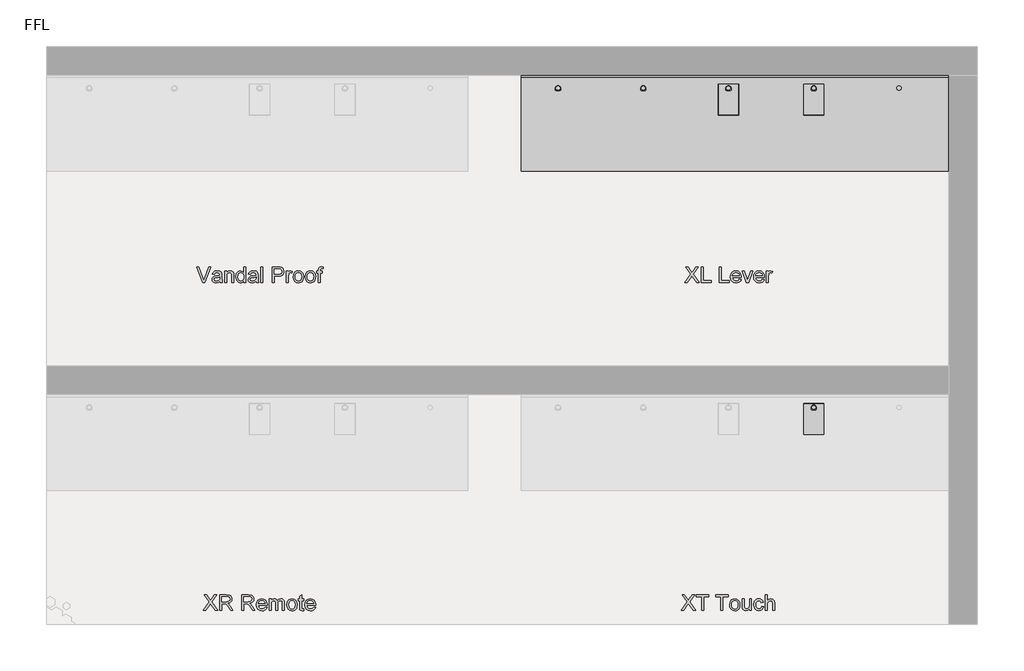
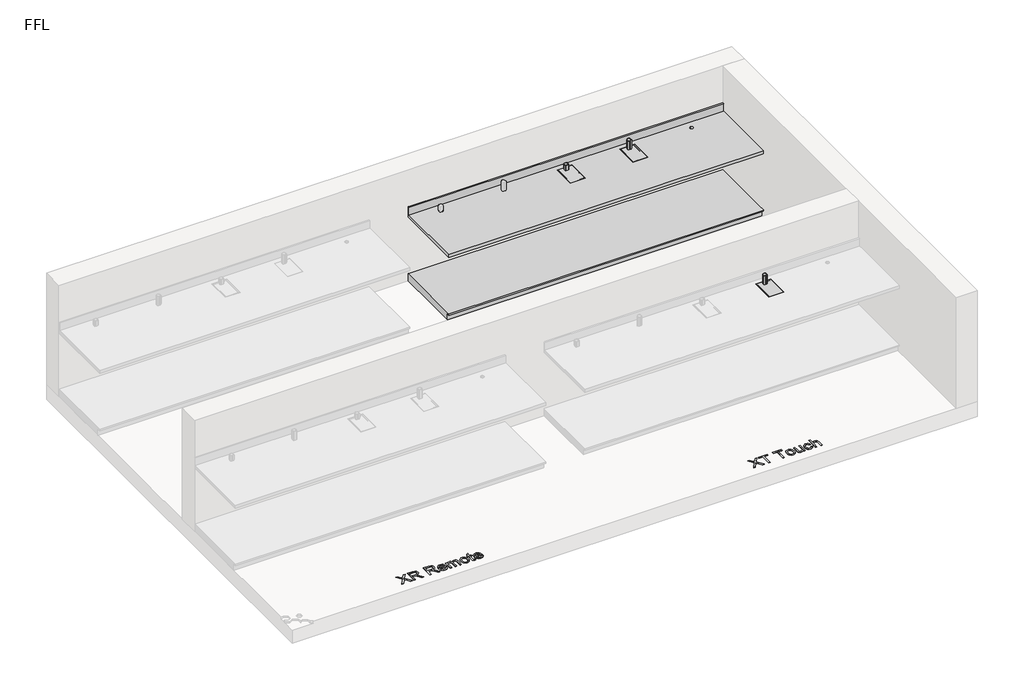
# One storey, part 2 of 2: 4 proxies, 3 flow terminals, 2 furniture elements.
"""IFC4 building model written with IfcOpenShell, lengths in millimetres."""

from ifc_helpers import new_model, si_unit, frame, origin, origin_with_axes, place, context, project, spatial, polyline, circle_curve, outline, extrude, transform, mapped, element, save
from ifc_brep_helpers import plane_surface, revolved_surface, advanced_brep
from components import chrome_988dec97, chrome_73782d16, generic_plinth_900mm_18ae8893

model = new_model("IFC4")

# Units and contexts
model_context = context("Model", 3, world=origin())
ifc_project = project(units=[si_unit("LENGTHUNIT", "METRE", prefix="MILLI")], contexts=[model_context])

# Site, building, storey
site = spatial("IfcSite", under=ifc_project)
building = spatial("IfcBuilding", under=site)
storey = spatial("IfcBuildingStorey", under=building, Name="FFL", Elevation=0.0)

# Proxies
placement = place(None, origin())
element("IfcBuildingElementProxy", 1, Name="150mm Arial", ObjectType="150mm Arial", at=placement, inside=storey, context=model_context, shape_type="SweptSolid", body=[
    extrude(outline(polyline([(-5501.8747159, 11901.1531174), (-5560.6487544, 12048.845425), (-5540.889139, 12048.845425), (-5501.5501967, 11942.439175), (-5493.5814467, 11918.4608097), (-5485.7208698, 11942.439175), (-5446.2737544, 12048.845425), (-5426.514139, 12048.845425), (-5482.8001967, 11901.1531174), (-5501.8747159, 11901.1531174)])), origin_with_axes(), (0.0, 0.0, 1.0), 5.0),
    extrude(outline(polyline([(-5342.4276006, 11914.9992712), (-5360.3302448, 11902.487252), (-5380.107889, 11898.845425), (-5395.5360741, 11901.0359299), (-5406.9167833, 11907.6074443), (-5413.9345116, 11917.5864106), (-5416.2737544, 11929.9992712), (-5412.7401006, 11944.6026366), (-5403.4552448, 11955.2035981), (-5390.5285621, 11961.2612904), (-5374.5550044, 11964.0377327), (-5342.5357736, 11970.3838866), (-5342.4276006, 11974.4944635), (-5343.6986342, 11982.7336462), (-5347.5117352, 11988.1242712), (-5356.0393794, 11992.126675), (-5367.920389, 11993.4608097), (-5386.5982736, 11989.909127), (-5395.5045236, 11977.3069635), (-5413.9660621, 11979.6146558), (-5405.9792833, 11997.643502), (-5389.8975525, 12008.2084058), (-5365.5405813, 12011.9223481), (-5343.1667833, 12008.6410981), (-5330.5285621, 12000.4019154), (-5324.8675044, 11987.8718674), (-5323.9660621, 11971.7180212), (-5323.9660621, 11948.7492712), (-5323.0285621, 11916.6759539), (-5319.3506775, 11901.1531174), (-5337.8122159, 11901.1531174), (-5342.4276006, 11914.9992712)]), holes=[polyline([(-5342.4276006, 11951.9223481), (-5372.2112544, 11946.2612904), (-5388.0946679, 11943.268502), (-5395.2881775, 11938.4007135), (-5397.8122159, 11931.2973481), (-5392.3134179, 11921.3093674), (-5376.1776006, 11917.3069635), (-5357.4997159, 11921.7240308), (-5345.4564467, 11932.4151366), (-5342.5357736, 11946.6939827), (-5342.4276006, 11951.9223481)])]), origin_with_axes(), (0.0, 0.0, 1.0), 5.0),
    extrude(outline(polyline([(-5298.5814467, 11901.1531174), (-5298.5814467, 12009.6146558), (-5280.1199083, 12009.6146558), (-5280.1199083, 11994.470425), (-5266.0033217, 12007.5593674), (-5246.7304852, 12011.9223481), (-5229.2965909, 12008.4067231), (-5217.3975525, 11999.1759539), (-5211.8626967, 11985.6002327), (-5210.889139, 11967.751675), (-5210.889139, 11901.1531174), (-5229.3506775, 11901.1531174), (-5229.3506775, 11965.2636943), (-5231.4780813, 11981.5978289), (-5238.9961102, 11990.2336462), (-5251.670389, 11993.4608097), (-5262.4831895, 11991.6489106), (-5271.7004371, 11986.2132135), (-5278.0150405, 11975.7114106), (-5280.1199083, 11958.7011943), (-5280.1199083, 11901.1531174), (-5298.5814467, 11901.1531174)])), origin_with_axes(), (0.0, 0.0, 1.0), 5.0),
    extrude(outline(polyline([(-5118.5814467, 11901.1531174), (-5118.5814467, 11918.5689827), (-5130.79599, 11903.7763145), (-5147.6800044, 11898.845425), (-5159.6151006, 11900.6302808), (-5170.5405813, 11905.9848481), (-5179.7893794, 11914.5350284), (-5186.6944275, 11925.9067231), (-5190.9943073, 11939.6401967), (-5192.4276006, 11955.2757135), (-5187.1451486, 11984.6627327), (-5180.5465909, 11996.3183818), (-5171.3158217, 12004.8910981), (-5160.1514587, 12010.1645356), (-5147.7521198, 12011.9223481), (-5130.732889, 12006.8923), (-5118.5814467, 11993.8213866), (-5118.5814467, 12048.845425), (-5100.1199083, 12048.845425), (-5100.1199083, 11901.1531174), (-5118.5814467, 11901.1531174)]), holes=[polyline([(-5173.9660621, 11955.3478289), (-5171.8837304, 11938.6486101), (-5165.6367352, 11926.7721077), (-5156.5592111, 11919.6732496), (-5145.9852929, 11917.3069635), (-5135.4158818, 11919.5650765), (-5126.5682256, 11926.3394154), (-5120.5781414, 11937.7561823), (-5118.5814467, 11953.9415789), (-5120.6141991, 11971.6368914), (-5126.7124563, 11983.9055212), (-5135.7854732, 11991.0719875), (-5146.7425044, 11993.4608097), (-5157.4245958, 11991.166639), (-5166.1776006, 11984.284127), (-5172.0189467, 11972.4617111), (-5173.9660621, 11955.3478289)])]), origin_with_axes(), (0.0, 0.0, 1.0), 5.0),
    extrude(outline(polyline([(-5003.1968313, 11914.9992712), (-5021.0994756, 11902.487252), (-5040.8771198, 11898.845425), (-5056.3053049, 11901.0359299), (-5067.686014, 11907.6074443), (-5074.7037424, 11917.5864106), (-5077.0429852, 11929.9992712), (-5073.5093313, 11944.6026366), (-5064.2244756, 11955.2035981), (-5051.2977929, 11961.2612904), (-5035.3242352, 11964.0377327), (-5003.3050044, 11970.3838866), (-5003.1968313, 11974.4944635), (-5004.467865, 11982.7336462), (-5008.2809659, 11988.1242712), (-5016.8086102, 11992.126675), (-5028.6896198, 11993.4608097), (-5047.3675044, 11989.909127), (-5056.2737544, 11977.3069635), (-5074.7352929, 11979.6146558), (-5066.748514, 11997.643502), (-5050.6667833, 12008.2084058), (-5026.3098121, 12011.9223481), (-5003.936014, 12008.6410981), (-4991.2977929, 12000.4019154), (-4985.6367352, 11987.8718674), (-4984.7352929, 11971.7180212), (-4984.7352929, 11948.7492712), (-4983.7977929, 11916.6759539), (-4980.1199083, 11901.1531174), (-4998.5814467, 11901.1531174), (-5003.1968313, 11914.9992712)]), holes=[polyline([(-5003.1968313, 11951.9223481), (-5032.9804852, 11946.2612904), (-5048.8638986, 11943.268502), (-5056.0574083, 11938.4007135), (-5058.5814467, 11931.2973481), (-5053.0826486, 11921.3093674), (-5036.9468313, 11917.3069635), (-5018.2689467, 11921.7240308), (-5006.2256775, 11932.4151366), (-5003.3050044, 11946.6939827), (-5003.1968313, 11951.9223481)])]), origin_with_axes(), (0.0, 0.0, 1.0), 5.0),
    extrude(outline(polyline([(-4959.3506775, 11901.1531174), (-4959.3506775, 12048.845425), (-4940.889139, 12048.845425), (-4940.889139, 11901.1531174), (-4959.3506775, 11901.1531174)])), origin_with_axes(), (0.0, 0.0, 1.0), 5.0),
    extrude(outline(polyline([(-4853.1968313, 11901.1531174), (-4853.1968313, 12048.845425), (-4798.4612544, 12048.845425), (-4776.3939467, 12047.439175), (-4758.4552448, 12040.534127), (-4746.826639, 12026.2552808), (-4742.4276006, 12006.1170597), (-4745.397853, 11988.7102087), (-4754.3086102, 11974.206002), (-4770.9717712, 11964.4163385), (-4797.1992352, 11961.1531174), (-4834.7352929, 11961.1531174), (-4834.7352929, 11901.1531174), (-4853.1968313, 11901.1531174)]), holes=[polyline([(-4834.7352929, 11979.6146558), (-4796.1175044, 11979.6146558), (-4779.7473121, 11981.3093674), (-4768.9300044, 11986.393502), (-4762.8993554, 11994.5515549), (-4760.889139, 12005.4680212), (-4765.6307256, 12020.7564827), (-4778.0886583, 12029.1218674), (-4796.5501967, 12030.3838866), (-4834.7352929, 12030.3838866), (-4834.7352929, 11979.6146558)])]), origin_with_axes(), (0.0, 0.0, 1.0), 5.0),
    extrude(outline(polyline([(-4719.3506775, 11901.1531174), (-4719.3506775, 12009.6146558), (-4703.1968313, 12009.6146558), (-4703.1968313, 11993.5689827), (-4691.7304852, 12008.3526366), (-4680.1920236, 12011.9223481), (-4661.6583698, 12006.2252327), (-4667.8242352, 11989.674752), (-4680.8050044, 11993.4608097), (-4691.2437063, 11989.8189827), (-4697.8963506, 11979.7228289), (-4700.889139, 11958.1603289), (-4700.889139, 11901.1531174), (-4719.3506775, 11901.1531174)])), origin_with_axes(), (0.0, 0.0, 1.0), 5.0),
    extrude(outline(polyline([(-4654.7352929, 11955.3838866), (-4650.7419034, 11981.5347279), (-4638.7617352, 11999.9151366), (-4623.9600525, 12008.9205452), (-4606.2376967, 12011.9223481), (-4586.8431655, 12008.2669996), (-4571.3518794, 11997.3009539), (-4561.1971318, 11979.8895957), (-4557.8122159, 11956.8983097), (-4559.3086102, 11938.2474683), (-4563.7977929, 11924.049752), (-4571.1490549, 11913.41724), (-4581.2316871, 11905.4620116), (-4593.2073482, 11900.4995717), (-4606.2376967, 11898.845425), (-4625.866603, 11902.487252), (-4641.3398602, 11913.4127327), (-4651.3864347, 11931.189175), (-4654.7352929, 11955.3838866)]), holes=[polyline([(-4636.2737544, 11955.4199443), (-4634.1373361, 11938.7117111), (-4627.7280813, 11926.8081654), (-4618.0826486, 11919.682264), (-4606.2376967, 11917.3069635), (-4594.4468313, 11919.6957856), (-4584.8194275, 11926.862252), (-4578.4101727, 11938.92355), (-4576.2737544, 11955.9968674), (-4578.4236943, 11972.2183217), (-4584.873514, 11983.9596077), (-4594.5144395, 11991.0855092), (-4606.2376967, 11993.4608097), (-4618.0826486, 11991.0945236), (-4627.7280813, 11983.9956654), (-4634.1373361, 11972.119163), (-4636.2737544, 11955.4199443)])]), origin_with_axes(), (0.0, 0.0, 1.0), 5.0),
    extrude(outline(polyline([(-4541.6583698, 11955.3838866), (-4537.6649804, 11981.5347279), (-4525.6848121, 11999.9151366), (-4510.8831294, 12008.9205452), (-4493.1607736, 12011.9223481), (-4473.7662424, 12008.2669996), (-4458.2749563, 11997.3009539), (-4448.1202087, 11979.8895957), (-4444.7352929, 11956.8983097), (-4446.2316871, 11938.2474683), (-4450.7208698, 11924.049752), (-4458.0721318, 11913.41724), (-4468.154764, 11905.4620116), (-4480.1304251, 11900.4995717), (-4493.1607736, 11898.845425), (-4512.7896799, 11902.487252), (-4528.2629371, 11913.4127327), (-4538.3095116, 11931.189175), (-4541.6583698, 11955.3838866)]), holes=[polyline([(-4523.1968313, 11955.4199443), (-4521.0604131, 11938.7117111), (-4514.6511583, 11926.8081654), (-4505.0057256, 11919.682264), (-4493.1607736, 11917.3069635), (-4481.3699083, 11919.6957856), (-4471.7425044, 11926.862252), (-4465.3332496, 11938.92355), (-4463.1968313, 11955.9968674), (-4465.3467712, 11972.2183217), (-4471.7965909, 11983.9596077), (-4481.4375164, 11991.0855092), (-4493.1607736, 11993.4608097), (-4505.0057256, 11991.0945236), (-4514.6511583, 11983.9956654), (-4521.0604131, 11972.119163), (-4523.1968313, 11955.4199443)])]), origin_with_axes(), (0.0, 0.0, 1.0), 5.0),
    extrude(outline(polyline([(-4419.3506775, 11901.1531174), (-4419.3506775, 11991.1531174), (-4435.5045236, 11991.1531174), (-4435.5045236, 12009.6146558), (-4419.3506775, 12009.6146558), (-4419.3506775, 12020.5401366), (-4417.4035621, 12035.9367712), (-4407.9564467, 12046.9343674), (-4389.3506775, 12051.1531174), (-4372.5117352, 12049.1338866), (-4375.2160621, 12031.8261943), (-4385.8530813, 12032.6915789), (-4397.4816871, 12029.626675), (-4400.889139, 12018.1963866), (-4400.889139, 12009.6146558), (-4380.1199083, 12009.6146558), (-4380.1199083, 11991.1531174), (-4400.889139, 11991.1531174), (-4400.889139, 11901.1531174), (-4419.3506775, 11901.1531174)])), origin_with_axes(), (0.0, 0.0, 1.0), 5.0),
])
element("IfcBuildingElementProxy", 2, Name="150mm Arial", ObjectType="150mm Arial", at=placement, inside=storey, context=model_context, shape_type="SweptSolid", body=[
    extrude(outline(polyline([(-980.5045236, 11901.1531174), (-923.5694275, 11981.6338866), (-971.2737544, 12048.845425), (-949.1343313, 12048.845425), (-922.2713506, 12011.0209058), (-913.2208698, 11996.2733097), (-902.6199083, 12011.2733097), (-876.045389, 12048.845425), (-853.5814467, 12048.845425), (-901.2857736, 11981.4175404), (-844.3506775, 11901.1531174), (-866.4901006, 11901.1531174), (-904.4227929, 11954.6627327), (-912.3194275, 11965.768502), (-921.0093313, 11953.581002), (-958.0405813, 11901.1531174), (-980.5045236, 11901.1531174)])), origin_with_axes(), (0.0, 0.0, 1.0), 5.0),
    extrude(outline(polyline([(-825.889139, 11901.1531174), (-825.889139, 12048.845425), (-807.4276006, 12048.845425), (-807.4276006, 11919.6146558), (-733.5814467, 11919.6146558), (-733.5814467, 11901.1531174), (-825.889139, 11901.1531174)])), origin_with_axes(), (0.0, 0.0, 1.0), 5.0),
    extrude(outline(polyline([(-655.1199083, 11901.1531174), (-655.1199083, 12048.845425), (-636.6583698, 12048.845425), (-636.6583698, 11919.6146558), (-562.8122159, 11919.6146558), (-562.8122159, 11901.1531174), (-655.1199083, 11901.1531174)])), origin_with_axes(), (0.0, 0.0, 1.0), 5.0),
    extrude(outline(polyline([(-468.4131775, 11933.4608097), (-450.3122159, 11931.1531174), (-456.834151, 11917.5142952), (-467.2413025, 11907.3189827), (-481.2992953, 11900.9638145), (-498.7737544, 11898.845425), (-520.4354131, 11902.5007736), (-537.1030813, 11913.4668193), (-547.7310861, 11931.0314226), (-551.2737544, 11954.4824443), (-547.6950284, 11978.7222279), (-536.9588506, 11996.8502327), (-520.5165429, 12008.1543193), (-499.8194275, 12011.9223481), (-479.7668434, 12008.1633337), (-463.7437063, 11996.8862904), (-453.2373962, 11978.7943433), (-449.7352929, 11954.5906174), (-449.8434659, 11949.6146558), (-532.8122159, 11949.6146558), (-529.616603, 11935.7955452), (-522.1932256, 11925.6362904), (-511.4795837, 11919.3892952), (-498.4131775, 11917.3069635), (-480.3122159, 11921.1651366), (-468.4131775, 11933.4608097)]), holes=[polyline([(-532.8122159, 11968.0761943), (-468.1968313, 11968.0761943), (-470.6938265, 11977.8298), (-475.5886583, 11984.8069635), (-486.3518794, 11991.2973481), (-499.8915429, 11993.4608097), (-512.3359539, 11991.7345476), (-522.6259179, 11986.5557616), (-529.7788626, 11978.4833457), (-532.8122159, 11968.0761943)])]), origin_with_axes(), (0.0, 0.0, 1.0), 5.0),
    extrude(outline(polyline([(-404.6631775, 11901.1531174), (-442.8122159, 12009.6146558), (-423.2689467, 12009.6146558), (-400.1559659, 11944.6386943), (-393.1968313, 11922.7877327), (-386.3819275, 11943.4127327), (-363.1247159, 12009.6146558), (-343.5814467, 12009.6146558), (-381.2617352, 11901.1531174), (-404.6631775, 11901.1531174)])), origin_with_axes(), (0.0, 0.0, 1.0), 5.0),
    extrude(outline(polyline([(-251.4901006, 11933.4608097), (-233.389139, 11931.1531174), (-239.9110741, 11917.5142952), (-250.3182256, 11907.3189827), (-264.3762184, 11900.9638145), (-281.8506775, 11898.845425), (-303.5123361, 11902.5007736), (-320.1800044, 11913.4668193), (-330.8080092, 11931.0314226), (-334.3506775, 11954.4824443), (-330.7719515, 11978.7222279), (-320.0357736, 11996.8502327), (-303.5934659, 12008.1543193), (-282.8963506, 12011.9223481), (-262.8437664, 12008.1633337), (-246.8206294, 11996.8862904), (-236.3143193, 11978.7943433), (-232.8122159, 11954.5906174), (-232.920389, 11949.6146558), (-315.889139, 11949.6146558), (-312.693526, 11935.7955452), (-305.2701486, 11925.6362904), (-294.5565068, 11919.3892952), (-281.4901006, 11917.3069635), (-263.389139, 11921.1651366), (-251.4901006, 11933.4608097)]), holes=[polyline([(-315.889139, 11968.0761943), (-251.2737544, 11968.0761943), (-253.7707496, 11977.8298), (-258.6655813, 11984.8069635), (-269.4288025, 11991.2973481), (-282.9684659, 11993.4608097), (-295.412877, 11991.7345476), (-305.7028409, 11986.5557616), (-312.8557857, 11978.4833457), (-315.889139, 11968.0761943)])]), origin_with_axes(), (0.0, 0.0, 1.0), 5.0),
    extrude(outline(polyline([(-214.3506775, 11901.1531174), (-214.3506775, 12009.6146558), (-198.1968313, 12009.6146558), (-198.1968313, 11993.5689827), (-186.7304852, 12008.3526366), (-175.1920236, 12011.9223481), (-156.6583698, 12006.2252327), (-162.8242352, 11989.674752), (-175.8050044, 11993.4608097), (-186.2437063, 11989.8189827), (-192.8963506, 11979.7228289), (-195.889139, 11958.1603289), (-195.889139, 11901.1531174), (-214.3506775, 11901.1531174)])), origin_with_axes(), (0.0, 0.0, 1.0), 5.0),
])
element("IfcBuildingElementProxy", 3, Name="150mm Arial", ObjectType="150mm Arial", at=placement, inside=storey, context=model_context, shape_type="SweptSolid", body=[
    extrude(outline(polyline([(-5499.3506775, 8821.1531174), (-5442.4155813, 8901.6338866), (-5490.1199083, 8968.845425), (-5467.9804852, 8968.845425), (-5441.1175044, 8931.0209058), (-5432.0670236, 8916.2733097), (-5421.4660621, 8931.2733097), (-5394.8915429, 8968.845425), (-5372.4276006, 8968.845425), (-5420.1319275, 8901.4175404), (-5363.1968313, 8821.1531174), (-5385.3362544, 8821.1531174), (-5423.2689467, 8874.6627327), (-5431.1655813, 8885.768502), (-5439.8554852, 8873.581002), (-5476.8867352, 8821.1531174), (-5499.3506775, 8821.1531174)])), origin_with_axes(), (0.0, 0.0, 1.0), 5.0),
    extrude(outline(polyline([(-5344.7352929, 8821.1531174), (-5344.7352929, 8968.845425), (-5281.0934659, 8968.845425), (-5251.5441871, 8964.86105), (-5242.4486342, 8959.3442231), (-5235.3903409, 8950.7624924), (-5230.8605934, 8940.1209659), (-5229.3506775, 8928.424752), (-5231.8521799, 8913.8754731), (-5239.3566871, 8901.814175), (-5252.0895597, 8892.971026), (-5270.2761583, 8888.0761943), (-5259.7833698, 8880.1795597), (-5244.8194275, 8861.1771558), (-5220.1920236, 8821.1531174), (-5241.6463506, 8821.1531174), (-5260.8651006, 8851.7660981), (-5274.7473121, 8872.0305212), (-5284.5009179, 8881.6038385), (-5293.2809659, 8885.1194635), (-5303.9901006, 8885.768502), (-5326.2737544, 8885.768502), (-5326.2737544, 8821.1531174), (-5344.7352929, 8821.1531174)]), holes=[polyline([(-5326.2737544, 8904.2300404), (-5284.951639, 8904.2300404), (-5263.8759179, 8906.8442231), (-5251.904764, 8915.2096077), (-5247.8122159, 8927.7396558), (-5249.7638385, 8936.7450645), (-5255.6187063, 8944.001675), (-5265.6923241, 8948.7883337), (-5280.3001967, 8950.3838866), (-5326.2737544, 8950.3838866), (-5326.2737544, 8904.2300404)])]), origin_with_axes(), (0.0, 0.0, 1.0), 5.0),
    extrude(outline(polyline([(-5139.3506775, 8821.1531174), (-5139.3506775, 8968.845425), (-5075.7088506, 8968.845425), (-5046.1595717, 8964.86105), (-5037.0640188, 8959.3442231), (-5030.0057256, 8950.7624924), (-5025.475978, 8940.1209659), (-5023.9660621, 8928.424752), (-5026.4675645, 8913.8754731), (-5033.9720717, 8901.814175), (-5046.7049443, 8892.971026), (-5064.8915429, 8888.0761943), (-5054.3987544, 8880.1795597), (-5039.4348121, 8861.1771558), (-5014.8074083, 8821.1531174), (-5036.2617352, 8821.1531174), (-5055.4804852, 8851.7660981), (-5069.3626967, 8872.0305212), (-5079.1163025, 8881.6038385), (-5087.8963506, 8885.1194635), (-5098.6054852, 8885.768502), (-5120.889139, 8885.768502), (-5120.889139, 8821.1531174), (-5139.3506775, 8821.1531174)]), holes=[polyline([(-5120.889139, 8904.2300404), (-5079.5670236, 8904.2300404), (-5058.4913025, 8906.8442231), (-5046.5201486, 8915.2096077), (-5042.4276006, 8927.7396558), (-5044.3792232, 8936.7450645), (-5050.2340909, 8944.001675), (-5060.3077087, 8948.7883337), (-5074.9155813, 8950.3838866), (-5120.889139, 8950.3838866), (-5120.889139, 8904.2300404)])]), origin_with_axes(), (0.0, 0.0, 1.0), 5.0),
    extrude(outline(polyline([(-4918.0285621, 8853.4608097), (-4899.9276006, 8851.1531174), (-4906.4495357, 8837.5142952), (-4916.8566871, 8827.3189827), (-4930.9146799, 8820.9638145), (-4948.389139, 8818.845425), (-4970.0507977, 8822.5007736), (-4986.7184659, 8833.4668193), (-4997.3464708, 8851.0314226), (-5000.889139, 8874.4824443), (-4997.3104131, 8898.7222279), (-4986.5742352, 8916.8502327), (-4970.1319275, 8928.1543193), (-4949.4348121, 8931.9223481), (-4929.382228, 8928.1633337), (-4913.3590909, 8916.8862904), (-4902.8527809, 8898.7943433), (-4899.3506775, 8874.5906174), (-4899.4588506, 8869.6146558), (-4982.4276006, 8869.6146558), (-4979.2319876, 8855.7955452), (-4971.8086102, 8845.6362904), (-4961.0949684, 8839.3892952), (-4948.0285621, 8837.3069635), (-4929.9276006, 8841.1651366), (-4918.0285621, 8853.4608097)]), holes=[polyline([(-4982.4276006, 8888.0761943), (-4917.8122159, 8888.0761943), (-4920.3092111, 8897.8298), (-4925.2040429, 8904.8069635), (-4935.967264, 8911.2973481), (-4949.5069275, 8913.4608097), (-4961.9513385, 8911.7345476), (-4972.2413025, 8906.5557616), (-4979.3942472, 8898.4833457), (-4982.4276006, 8888.0761943)])]), origin_with_axes(), (0.0, 0.0, 1.0), 5.0),
    extrude(outline(polyline([(-4880.889139, 8821.1531174), (-4880.889139, 8929.6146558), (-4862.4276006, 8929.6146558), (-4862.4276006, 8911.7660981), (-4849.7352929, 8926.3874924), (-4831.670389, 8931.9223481), (-4821.4029611, 8930.5115909), (-4813.1727929, 8926.2793193), (-4803.0045236, 8910.4680212), (-4788.5994756, 8926.5587664), (-4770.4083698, 8931.9223481), (-4756.5306655, 8929.6912784), (-4746.2677448, 8922.9980693), (-4739.9260982, 8911.6624323), (-4737.8122159, 8895.5040789), (-4737.8122159, 8821.1531174), (-4756.2737544, 8821.1531174), (-4756.2737544, 8887.5713866), (-4757.9864948, 8902.98605), (-4764.1884179, 8910.5761943), (-4774.7352929, 8913.4608097), (-4784.7367953, 8911.6128529), (-4792.8903409, 8906.0689827), (-4798.3125164, 8896.4505933), (-4800.1199083, 8882.3790789), (-4800.1199083, 8821.1531174), (-4818.5814467, 8821.1531174), (-4818.5814467, 8889.626675), (-4822.8542833, 8907.5112904), (-4828.4928049, 8911.9734299), (-4836.8626967, 8913.4608097), (-4850.5285621, 8909.4944635), (-4859.6151006, 8897.8838866), (-4862.4276006, 8875.8526366), (-4862.4276006, 8821.1531174), (-4880.889139, 8821.1531174)])), origin_with_axes(), (0.0, 0.0, 1.0), 5.0),
    extrude(outline(polyline([(-4714.7352929, 8875.3838866), (-4710.7419034, 8901.5347279), (-4698.7617352, 8919.9151366), (-4683.9600525, 8928.9205452), (-4666.2376967, 8931.9223481), (-4646.8431655, 8928.2669996), (-4631.3518794, 8917.3009539), (-4621.1971318, 8899.8895957), (-4617.8122159, 8876.8983097), (-4619.3086102, 8858.2474683), (-4623.7977929, 8844.049752), (-4631.1490549, 8833.41724), (-4641.2316871, 8825.4620116), (-4653.2073482, 8820.4995717), (-4666.2376967, 8818.845425), (-4685.866603, 8822.487252), (-4701.3398602, 8833.4127327), (-4711.3864347, 8851.189175), (-4714.7352929, 8875.3838866)]), holes=[polyline([(-4696.2737544, 8875.4199443), (-4694.1373361, 8858.7117111), (-4687.7280813, 8846.8081654), (-4678.0826486, 8839.682264), (-4666.2376967, 8837.3069635), (-4654.4468313, 8839.6957856), (-4644.8194275, 8846.862252), (-4638.4101727, 8858.92355), (-4636.2737544, 8875.9968674), (-4638.4236943, 8892.2183217), (-4644.873514, 8903.9596077), (-4654.5144395, 8911.0855092), (-4666.2376967, 8913.4608097), (-4678.0826486, 8911.0945236), (-4687.7280813, 8903.9956654), (-4694.1373361, 8892.119163), (-4696.2737544, 8875.4199443)])]), origin_with_axes(), (0.0, 0.0, 1.0), 5.0),
    extrude(outline(polyline([(-4557.8122159, 8836.549752), (-4555.5045236, 8820.612252), (-4569.3146198, 8818.845425), (-4584.7833698, 8821.9103289), (-4592.4997159, 8829.9511943), (-4594.7352929, 8850.9007135), (-4594.7352929, 8911.1531174), (-4608.5814467, 8911.1531174), (-4608.5814467, 8929.6146558), (-4594.7352929, 8929.6146558), (-4594.7352929, 8955.9728289), (-4576.2737544, 8966.8261943), (-4576.2737544, 8929.6146558), (-4557.8122159, 8929.6146558), (-4557.8122159, 8911.1531174), (-4576.2737544, 8911.1531174), (-4576.2737544, 8851.4415789), (-4575.3001967, 8841.9223481), (-4572.1451486, 8838.5509539), (-4565.8530813, 8837.3069635), (-4557.8122159, 8836.549752)])), origin_with_axes(), (0.0, 0.0, 1.0), 5.0),
    extrude(outline(polyline([(-4463.4131775, 8853.4608097), (-4445.3122159, 8851.1531174), (-4451.834151, 8837.5142952), (-4462.2413025, 8827.3189827), (-4476.2992953, 8820.9638145), (-4493.7737544, 8818.845425), (-4515.4354131, 8822.5007736), (-4532.1030813, 8833.4668193), (-4542.7310861, 8851.0314226), (-4546.2737544, 8874.4824443), (-4542.6950284, 8898.7222279), (-4531.9588506, 8916.8502327), (-4515.5165429, 8928.1543193), (-4494.8194275, 8931.9223481), (-4474.7668434, 8928.1633337), (-4458.7437063, 8916.8862904), (-4448.2373962, 8898.7943433), (-4444.7352929, 8874.5906174), (-4444.8434659, 8869.6146558), (-4527.8122159, 8869.6146558), (-4524.616603, 8855.7955452), (-4517.1932256, 8845.6362904), (-4506.4795837, 8839.3892952), (-4493.4131775, 8837.3069635), (-4475.3122159, 8841.1651366), (-4463.4131775, 8853.4608097)]), holes=[polyline([(-4527.8122159, 8888.0761943), (-4463.1968313, 8888.0761943), (-4465.6938265, 8897.8298), (-4470.5886583, 8904.8069635), (-4481.3518794, 8911.2973481), (-4494.8915429, 8913.4608097), (-4507.3359539, 8911.7345476), (-4517.6259179, 8906.5557616), (-4524.7788626, 8898.4833457), (-4527.8122159, 8888.0761943)])]), origin_with_axes(), (0.0, 0.0, 1.0), 5.0),
])
element("IfcBuildingElementProxy", 4, Name="150mm Arial", ObjectType="150mm Arial", at=placement, inside=storey, context=model_context, shape_type="SweptSolid", body=[
    extrude(outline(polyline([(-1013.9660621, 8821.1531174), (-957.0309659, 8901.6338866), (-1004.7352929, 8968.845425), (-982.5958698, 8968.845425), (-955.732889, 8931.0209058), (-946.6824083, 8916.2733097), (-936.0814467, 8931.2733097), (-909.5069275, 8968.845425), (-887.0429852, 8968.845425), (-934.7473121, 8901.4175404), (-877.8122159, 8821.1531174), (-899.951639, 8821.1531174), (-937.8843313, 8874.6627327), (-945.7809659, 8885.768502), (-954.4708698, 8873.581002), (-991.5021198, 8821.1531174), (-1013.9660621, 8821.1531174)])), origin_with_axes(), (0.0, 0.0, 1.0), 5.0),
    extrude(outline(polyline([(-822.4276006, 8821.1531174), (-822.4276006, 8950.3838866), (-870.889139, 8950.3838866), (-870.889139, 8968.845425), (-755.5045236, 8968.845425), (-755.5045236, 8950.3838866), (-803.9660621, 8950.3838866), (-803.9660621, 8821.1531174), (-822.4276006, 8821.1531174)])), origin_with_axes(), (0.0, 0.0, 1.0), 5.0),
    extrude(outline(polyline([(-640.1199083, 8821.1531174), (-640.1199083, 8950.3838866), (-688.5814467, 8950.3838866), (-688.5814467, 8968.845425), (-573.1968313, 8968.845425), (-573.1968313, 8950.3838866), (-621.6583698, 8950.3838866), (-621.6583698, 8821.1531174), (-640.1199083, 8821.1531174)])), origin_with_axes(), (0.0, 0.0, 1.0), 5.0),
    extrude(outline(polyline([(-559.3506775, 8875.3838866), (-555.3572881, 8901.5347279), (-543.3771198, 8919.9151366), (-528.5754371, 8928.9205452), (-510.8530813, 8931.9223481), (-491.4585501, 8928.2669996), (-475.967264, 8917.3009539), (-465.8125164, 8899.8895957), (-462.4276006, 8876.8983097), (-463.9239948, 8858.2474683), (-468.4131775, 8844.049752), (-475.7644395, 8833.41724), (-485.8470717, 8825.4620116), (-497.8227328, 8820.4995717), (-510.8530813, 8818.845425), (-530.4819876, 8822.487252), (-545.9552448, 8833.4127327), (-556.0018193, 8851.189175), (-559.3506775, 8875.3838866)]), holes=[polyline([(-540.889139, 8875.4199443), (-538.7527208, 8858.7117111), (-532.3434659, 8846.8081654), (-522.6980333, 8839.682264), (-510.8530813, 8837.3069635), (-499.0622159, 8839.6957856), (-489.4348121, 8846.862252), (-483.0255573, 8858.92355), (-480.889139, 8875.9968674), (-483.0390789, 8892.2183217), (-489.4888986, 8903.9596077), (-499.1298241, 8911.0855092), (-510.8530813, 8913.4608097), (-522.6980333, 8911.0945236), (-532.3434659, 8903.9956654), (-538.7527208, 8892.119163), (-540.889139, 8875.4199443)])]), origin_with_axes(), (0.0, 0.0, 1.0), 5.0),
    extrude(outline(polyline([(-372.4276006, 8821.1531174), (-372.4276006, 8839.7949443), (-386.8867352, 8824.0828049), (-405.7449083, 8818.845425), (-423.1066871, 8822.5233097), (-435.0778409, 8831.7540789), (-440.576639, 8845.3478289), (-441.6583698, 8862.5112904), (-441.6583698, 8929.6146558), (-423.1968313, 8929.6146558), (-423.1968313, 8871.2011943), (-422.0790429, 8852.3790789), (-414.7773602, 8841.3273962), (-401.0213506, 8837.3069635), (-385.6066871, 8841.4175404), (-375.420389, 8852.6134539), (-372.4276006, 8873.1843674), (-372.4276006, 8929.6146558), (-353.9660621, 8929.6146558), (-353.9660621, 8821.1531174), (-372.4276006, 8821.1531174)])), origin_with_axes(), (0.0, 0.0, 1.0), 5.0),
    extrude(outline(polyline([(-259.3506775, 8860.3838866), (-240.889139, 8858.0761943), (-246.0363746, 8841.6564226), (-255.7088506, 8829.2480693), (-268.9961102, 8821.4460861), (-284.9876967, 8818.845425), (-304.6256174, 8822.4737303), (-319.9816871, 8833.3586462), (-329.8930453, 8851.0224082), (-333.1968313, 8874.987252), (-327.5538025, 8905.6543193), (-320.4324083, 8917.1522159), (-310.3542833, 8925.3598481), (-298.2974924, 8930.2817231), (-285.2401006, 8931.9223481), (-269.6406414, 8929.6687424), (-257.1691871, 8922.907925), (-248.2223722, 8912.0004731), (-243.1968313, 8897.3069635), (-261.6583698, 8894.9992712), (-270.2220717, 8908.8273962), (-285.0958698, 8913.4608097), (-297.0264587, 8911.1801606), (-306.4961102, 8904.3382135), (-312.6754972, 8892.565377), (-314.7352929, 8875.4920597), (-312.7205693, 8858.1888746), (-306.6763986, 8846.3754731), (-297.3780212, 8839.5740909), (-285.6006775, 8837.3069635), (-276.0408818, 8838.7222279), (-268.2028409, 8842.9680212), (-262.5012184, 8850.1525164), (-259.3506775, 8860.3838866)])), origin_with_axes(), (0.0, 0.0, 1.0), 5.0),
    extrude(outline(polyline([(-224.7352929, 8821.1531174), (-224.7352929, 8968.845425), (-206.2737544, 8968.845425), (-206.2737544, 8914.5425404), (-191.8777208, 8927.5773962), (-174.1463506, 8931.9223481), (-153.4131775, 8927.1807616), (-140.8290429, 8914.0737904), (-137.0429852, 8889.8069635), (-137.0429852, 8821.1531174), (-155.5045236, 8821.1531174), (-155.5045236, 8887.8959058), (-156.9738746, 8899.4523962), (-161.3819275, 8907.3670597), (-168.4852929, 8911.9373722), (-178.0405813, 8913.4608097), (-193.1667833, 8909.3502327), (-203.2629371, 8898.2084058), (-206.2737544, 8878.7733097), (-206.2737544, 8821.1531174), (-224.7352929, 8821.1531174)])), origin_with_axes(), (0.0, 0.0, 1.0), 5.0),
])

# Flow terminals
chrome_shape = chrome_988dec97(model_context)
element("IfcFlowTerminal", 5, ObjectType="z_PlumFixt_Billi_Font and 70mm Riser : Matte Black", at=placement, inside=storey, context=model_context, shape_type="MappedRepresentation", body=[
    mapped(chrome_shape, transform((-570.7352929, 13633.3988696, 900.0), x_axis=(1.0, 0.0, 0.0), y_axis=(0.0, 1.0, 0.0), z_axis=(0.0, 0.0, 1.0))),
])
chrome_2_shape = chrome_73782d16(model_context)
element("IfcFlowTerminal", 6, ObjectType="z_PlumFixt_Billi_Font and 120mm Riser : Matte White", at=placement, inside=storey, context=model_context, shape_type="MappedRepresentation", body=[
    mapped(chrome_2_shape, transform((229.2647071, 10633.3988696, 900.0), x_axis=(1.0, 0.0, 0.0), y_axis=(0.0, 1.0, 0.0), z_axis=(0.0, 0.0, 1.0))),
])
element("IfcFlowTerminal", 7, ObjectType="z_PlumFixt_Billi_Font and 120mm Riser : Matte White", at=placement, inside=storey, context=model_context, shape_type="MappedRepresentation", body=[
    mapped(chrome_2_shape, transform((229.2647071, 13633.3988696, 900.0), x_axis=(1.0, 0.0, 0.0), y_axis=(0.0, 1.0, 0.0), z_axis=(0.0, 0.0, 1.0))),
])

# Furniture
element("IfcFurniture", 8, ObjectType="Counter Top : 900mm Depth", at=placement, inside=storey, context=model_context, shape_type="AdvancedBrep", body=[
    advanced_brep(
    [(-2515.7352929, 12948.2393304, 900.0), (1496.7657919, 12948.2393304, 900.0), (1496.7657919, 13829.1893304, 900.0), (-2515.7352929, 13829.1893304, 900.0), (-2169.7352929, 13748.2393304, 900.0), (-2169.7352929, 13708.2393304, 900.0), (-1369.7352929, 13748.2393304, 900.0), (-1369.7352929, 13708.2393304, 900.0), (-474.2352929, 13474.1488696, 900.0), (-665.2352929, 13474.1488696, 900.0), (-665.2352929, 13765.1488696, 900.0), (-474.2352929, 13765.1488696, 900.0), (1030.2647071, 13748.2393304, 900.0), (1030.2647071, 13708.2393304, 900.0), (325.7647071, 13474.1488696, 900.0), (134.7647071, 13474.1488696, 900.0), (134.7647071, 13765.1488696, 900.0), (325.7647071, 13765.1488696, 900.0), (1496.7657919, 13848.2393304, 860.0), (1496.7657919, 12948.2393304, 860.0), (-2515.7352929, 12948.2393304, 860.0), (-2515.7352929, 13848.2393304, 860.0), (-2169.7352929, 13708.2393304, 860.0), (-2169.7352929, 13748.2393304, 860.0), (-1369.7352929, 13708.2393304, 860.0), (-1369.7352929, 13748.2393304, 860.0), (-656.7352929, 13482.6488696, 860.0), (-482.7352929, 13482.6488696, 860.0), (-482.7352929, 13756.6488696, 860.0), (-656.7352929, 13756.6488696, 860.0), (1030.2647071, 13708.2393304, 860.0), (1030.2647071, 13748.2393304, 860.0), (143.2647071, 13482.6488696, 860.0), (317.2647071, 13482.6488696, 860.0), (317.2647071, 13756.6488696, 860.0), (143.2647071, 13756.6488696, 860.0), (-2515.7352929, 13848.2393304, 1001.6), (1496.7657919, 13848.2393304, 1001.6), (-2515.7352929, 13829.1893304, 1001.6), (1496.7657919, 13829.1893304, 1001.6), (-656.7352929, 13482.6488696, 894.5), (-482.7352929, 13482.6488696, 894.5), (-474.2352929, 13474.1488696, 894.5), (-665.2352929, 13474.1488696, 894.5), (-482.7352929, 13756.6488696, 894.5), (-474.2352929, 13765.1488696, 894.5), (-656.7352929, 13756.6488696, 894.5), (-665.2352929, 13765.1488696, 894.5), (143.2647071, 13482.6488696, 894.5), (317.2647071, 13482.6488696, 894.5), (325.7647071, 13474.1488696, 894.5), (134.7647071, 13474.1488696, 894.5), (317.2647071, 13756.6488696, 894.5), (325.7647071, 13765.1488696, 894.5), (143.2647071, 13756.6488696, 894.5), (134.7647071, 13765.1488696, 894.5)],
    [
        (0, 1),
        (1, 2),
        (2, 3),
        (3, 0),
        (4, 5, circle_curve(frame((-2169.7352929, 13728.2393304, 900.0), z_axis=(0.0, 0.0, -1.0), x_axis=(0.0, 1.0, 0.0)), 20.0)),
        (5, 4, circle_curve(frame((-2169.7352929, 13728.2393304, 900.0), z_axis=(0.0, 0.0, -1.0), x_axis=(0.0, 1.0, 0.0)), 20.0)),
        (6, 7, circle_curve(frame((-1369.7352929, 13728.2393304, 900.0), z_axis=(0.0, 0.0, -1.0), x_axis=(0.0, 1.0, 0.0)), 20.0)),
        (7, 6, circle_curve(frame((-1369.7352929, 13728.2393304, 900.0), z_axis=(0.0, 0.0, -1.0), x_axis=(0.0, 1.0, 0.0)), 20.0)),
        (8, 9),
        (9, 10),
        (10, 11),
        (11, 8),
        (12, 13, circle_curve(frame((1030.2647071, 13728.2393304, 900.0), z_axis=(0.0, 0.0, -1.0), x_axis=(0.0, 1.0, 0.0)), 20.0)),
        (13, 12, circle_curve(frame((1030.2647071, 13728.2393304, 900.0), z_axis=(0.0, 0.0, -1.0), x_axis=(0.0, 1.0, 0.0)), 20.0)),
        (14, 15),
        (15, 16),
        (16, 17),
        (17, 14),
        (18, 19),
        (19, 20),
        (20, 21),
        (21, 18),
        (22, 23, circle_curve(frame((-2169.7352929, 13728.2393304, 860.0), z_axis=(0.0, 0.0, 1.0), x_axis=(0.0, 1.0, 0.0)), 20.0)),
        (23, 22, circle_curve(frame((-2169.7352929, 13728.2393304, 860.0), z_axis=(0.0, 0.0, 1.0), x_axis=(0.0, 1.0, 0.0)), 20.0)),
        (24, 25, circle_curve(frame((-1369.7352929, 13728.2393304, 860.0), z_axis=(0.0, 0.0, 1.0), x_axis=(0.0, 1.0, 0.0)), 20.0)),
        (25, 24, circle_curve(frame((-1369.7352929, 13728.2393304, 860.0), z_axis=(0.0, 0.0, 1.0), x_axis=(0.0, 1.0, 0.0)), 20.0)),
        (26, 27),
        (27, 28),
        (28, 29),
        (29, 26),
        (30, 31, circle_curve(frame((1030.2647071, 13728.2393304, 860.0), z_axis=(0.0, 0.0, 1.0), x_axis=(0.0, 1.0, 0.0)), 20.0)),
        (31, 30, circle_curve(frame((1030.2647071, 13728.2393304, 860.0), z_axis=(0.0, 0.0, 1.0), x_axis=(0.0, 1.0, 0.0)), 20.0)),
        (32, 33),
        (33, 34),
        (34, 35),
        (35, 32),
        (21, 36),
        (36, 37),
        (37, 18),
        (3, 38),
        (38, 36),
        (20, 0),
        (19, 1),
        (37, 39),
        (39, 2),
        (38, 39),
        (22, 5),
        (4, 23),
        (24, 7),
        (6, 25),
        (40, 41),
        (41, 27),
        (26, 40),
        (8, 42),
        (42, 43),
        (43, 9),
        (41, 44),
        (44, 28),
        (11, 45),
        (45, 42),
        (44, 46),
        (46, 29),
        (10, 47),
        (47, 45),
        (46, 40),
        (47, 43),
        (30, 13),
        (12, 31),
        (48, 49),
        (49, 33),
        (32, 48),
        (14, 50),
        (50, 51),
        (51, 15),
        (49, 52),
        (52, 34),
        (17, 53),
        (53, 50),
        (52, 54),
        (54, 35),
        (16, 55),
        (55, 53),
        (54, 48),
        (55, 51),
    ],
    [
        plane_surface(frame((-2515.7352929, 13848.2393304, 900.0), z_axis=(0.0, 0.0, 1.0), x_axis=(-1.0, 0.0, 0.0))),
        plane_surface(frame((-2515.7352929, 13848.2393304, 860.0), z_axis=(0.0, 0.0, -1.0), x_axis=(1.0, 0.0, 0.0))),
        plane_surface(frame((1496.7657919, 13848.2393304, 900.0), z_axis=(0.0, 1.0, 0.0), x_axis=(0.0, 0.0, -1.0))),
        plane_surface(frame((-2515.7352929, 13848.2393304, 900.0), z_axis=(-1.0, 0.0, 0.0), x_axis=(0.0, 0.0, -1.0))),
        plane_surface(frame((-2515.7352929, 12948.2393304, 900.0), z_axis=(0.0, -1.0, 0.0), x_axis=(0.0, 0.0, -1.0))),
        plane_surface(frame((1496.7657919, 12948.2393304, 900.0), z_axis=(1.0, 0.0, 0.0), x_axis=(0.0, 0.0, -1.0))),
        plane_surface(frame((-2515.7352929, 13848.2393304, 1001.6), z_axis=(0.0, 0.0, 1.0), x_axis=(0.0, -1.0, 0.0))),
        plane_surface(frame((-2515.7352929, 13829.1893304, 1001.6), z_axis=(0.0, -1.0, 0.0), x_axis=(0.0, 0.0, -1.0))),
        revolved_surface(polyline([(-2169.7352929, 13748.2393304, 900.0), (-2169.7352929, 13748.2393304, 860.0)]), (-2169.7352929, 13728.2393304, 800.0), (0.0, 0.0, 1.0)),
        revolved_surface(polyline([(-1369.7352929, 13748.2393304, 900.0), (-1369.7352929, 13748.2393304, 860.0)]), (-1369.7352929, 13728.2393304, 800.0), (0.0, 0.0, 1.0)),
        plane_surface(frame((-656.7352929, 13482.6488696, 800.0), z_axis=(0.0, 1.0, 0.0), x_axis=(1.0, 0.0, 0.0))),
        plane_surface(frame((-665.2352929, 13474.1488696, 894.5), z_axis=(0.0, 1.0, 0.0), x_axis=(1.0, 0.0, 0.0))),
        plane_surface(frame((-482.7352929, 13482.6488696, 800.0), z_axis=(-1.0, 0.0, 0.0), x_axis=(0.0, 1.0, 0.0))),
        plane_surface(frame((-474.2352929, 13474.1488696, 894.5), z_axis=(-1.0, 0.0, 0.0), x_axis=(0.0, 1.0, 0.0))),
        plane_surface(frame((-482.7352929, 13756.6488696, 800.0), z_axis=(0.0, -1.0, 0.0), x_axis=(-1.0, 0.0, 0.0))),
        plane_surface(frame((-474.2352929, 13765.1488696, 894.5), z_axis=(0.0, -1.0, 0.0), x_axis=(-1.0, 0.0, 0.0))),
        plane_surface(frame((-656.7352929, 13756.6488696, 800.0), z_axis=(1.0, 0.0, 0.0), x_axis=(0.0, -1.0, 0.0))),
        plane_surface(frame((-656.7352929, 13756.6488696, 894.5), z_axis=(0.0, 0.0, 1.0), x_axis=(0.0, -1.0, 0.0))),
        plane_surface(frame((-665.2352929, 13765.1488696, 894.5), z_axis=(1.0, 0.0, 0.0), x_axis=(0.0, -1.0, 0.0))),
        revolved_surface(polyline([(1030.2647071, 13748.2393304, 900.0), (1030.2647071, 13748.2393304, 860.0)]), (1030.2647071, 13728.2393304, 800.0), (0.0, 0.0, 1.0)),
        plane_surface(frame((143.2647071, 13482.6488696, 800.0), z_axis=(0.0, 1.0, 0.0), x_axis=(1.0, 0.0, 0.0))),
        plane_surface(frame((134.7647071, 13474.1488696, 894.5), z_axis=(0.0, 1.0, 0.0), x_axis=(1.0, 0.0, 0.0))),
        plane_surface(frame((317.2647071, 13482.6488696, 800.0), z_axis=(-1.0, 0.0, 0.0), x_axis=(0.0, 1.0, 0.0))),
        plane_surface(frame((325.7647071, 13474.1488696, 894.5), z_axis=(-1.0, 0.0, 0.0), x_axis=(0.0, 1.0, 0.0))),
        plane_surface(frame((317.2647071, 13756.6488696, 800.0), z_axis=(0.0, -1.0, 0.0), x_axis=(-1.0, 0.0, 0.0))),
        plane_surface(frame((325.7647071, 13765.1488696, 894.5), z_axis=(0.0, -1.0, 0.0), x_axis=(-1.0, 0.0, 0.0))),
        plane_surface(frame((143.2647071, 13756.6488696, 800.0), z_axis=(1.0, 0.0, 0.0), x_axis=(0.0, -1.0, 0.0))),
        plane_surface(frame((143.2647071, 13756.6488696, 894.5), z_axis=(0.0, 0.0, 1.0), x_axis=(0.0, -1.0, 0.0))),
        plane_surface(frame((134.7647071, 13765.1488696, 894.5), z_axis=(1.0, 0.0, 0.0), x_axis=(0.0, -1.0, 0.0))),
    ],
    [
        (0, [[1, 2, 3, 4], [5, 6], [7, 8], [9, 10, 11, 12], [13, 14], [15, 16, 17, 18]]),
        (1, [[19, 20, 21, 22], [23, 24], [25, 26], [27, 28, 29, 30], [31, 32], [33, 34, 35, 36]]),
        (2, [[-22, 37, 38, 39]]),
        (3, [[-4, 40, 41, -37, -21, 42]]),
        (4, [[-1, -42, -20, 43]]),
        (5, [[-2, -43, -19, -39, 44, 45]]),
        (6, [[-38, -41, 46, -44]]),
        (7, [[-3, -45, -46, -40]]),
        (8, [[47, -5, 48, -23]]),
        (8, [[-47, -24, -48, -6]]),
        (9, [[49, -7, 50, -25]]),
        (9, [[-49, -26, -50, -8]]),
        (10, [[51, 52, -27, 53]]),
        (11, [[54, 55, 56, -9]]),
        (12, [[57, 58, -28, -52]]),
        (13, [[-54, -12, 59, 60]]),
        (14, [[61, 62, -29, -58]]),
        (15, [[-59, -11, 63, 64]]),
        (16, [[65, -53, -30, -62]]),
        (17, [[-55, -60, -64, 66], [-51, -65, -61, -57]]),
        (18, [[-56, -66, -63, -10]]),
        (19, [[67, -13, 68, -31]]),
        (19, [[-67, -32, -68, -14]]),
        (20, [[69, 70, -33, 71]]),
        (21, [[72, 73, 74, -15]]),
        (22, [[75, 76, -34, -70]]),
        (23, [[-72, -18, 77, 78]]),
        (24, [[79, 80, -35, -76]]),
        (25, [[-77, -17, 81, 82]]),
        (26, [[83, -71, -36, -80]]),
        (27, [[-73, -78, -82, 84], [-69, -83, -79, -75]]),
        (28, [[-74, -84, -81, -16]]),
    ],
),
])
generic_plinth_900mm_shape = generic_plinth_900mm_18ae8893(model_context)
element("IfcFurniture", 9, ObjectType="Generic Plinth : 900mm", at=placement, inside=storey, context=model_context, shape_type="MappedRepresentation", body=[
    mapped(generic_plinth_900mm_shape, transform((-528.2224554, 13848.2393304, 0.0), x_axis=(1.0, 0.0, 0.0), y_axis=(0.0, 1.0, 0.0), z_axis=(0.0, 0.0, 1.0))),
])

save(model, "model.ifc")
